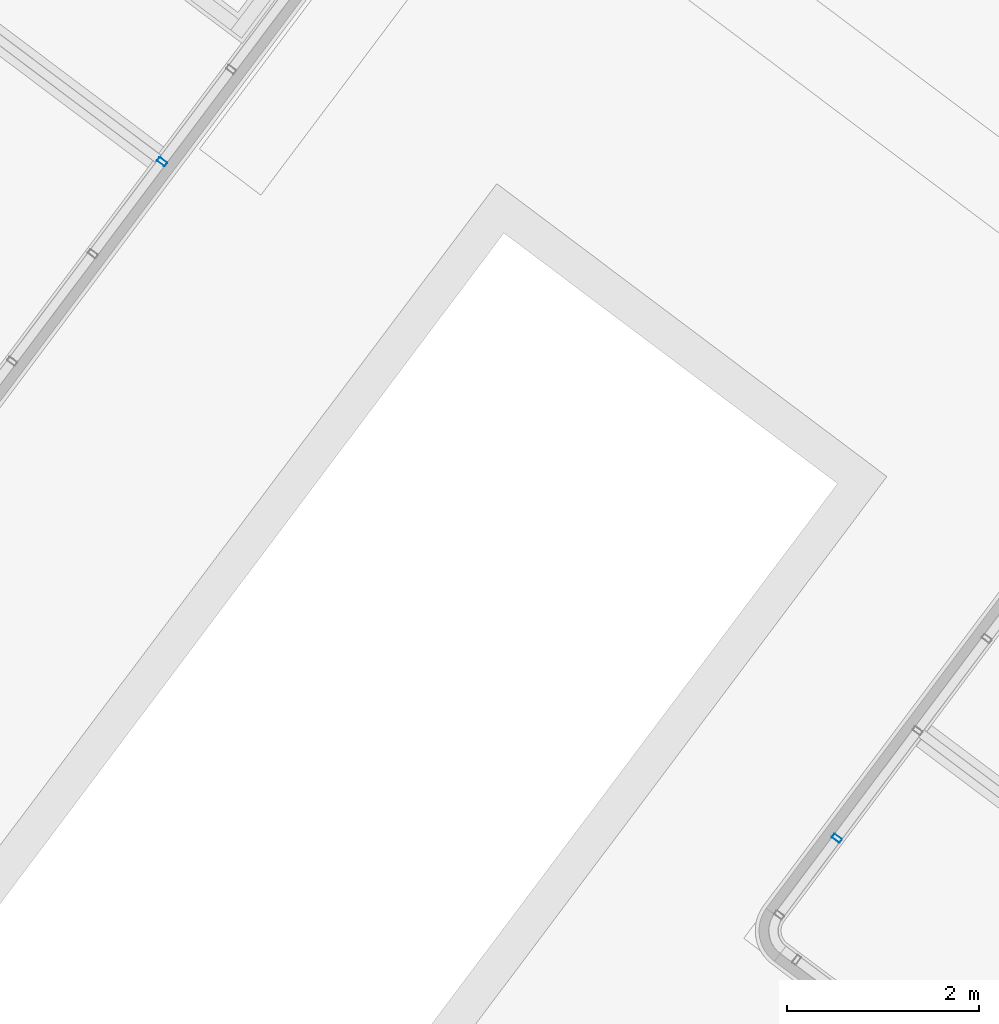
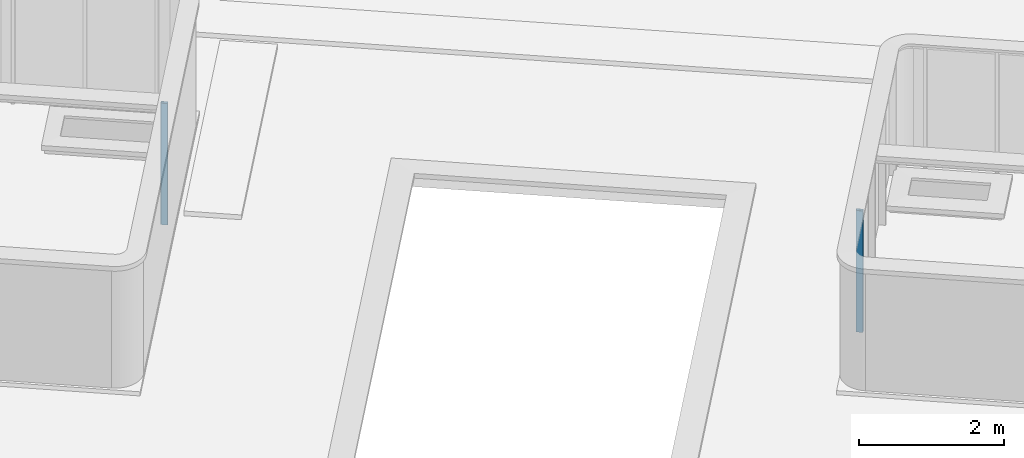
# One storey, part 3 of 28: 2 columns.
"""IFC2X3 building model written with IfcOpenShell, lengths in metres."""

from ifc_helpers import new_model, entity, si_unit, converted_unit, derived_unit, direction, frame, frame_2d, origin, place, context, subcontext, project, spatial, polyline, circle_curve, parameter, trimmed, segment, composite_curve, outline, extrude, source, transform, mapped, material, type_object, type_shapes, element, save


model = new_model("IFC2X3")

# Units and contexts
model_context = context("Model", 3, precision=1e-05, world=origin(), true_north=direction((6.123031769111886e-17, 1.0)))
body_context = subcontext(model_context, "Body", "Model", "MODEL_VIEW")
ifc_project = project(units=[si_unit("LENGTHUNIT", "METRE"), si_unit("AREAUNIT", "SQUARE_METRE"), si_unit("VOLUMEUNIT", "CUBIC_METRE"), converted_unit("PLANEANGLEUNIT", "DEGREE", entity("IfcRatioMeasure", 0.017453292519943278), si_unit("PLANEANGLEUNIT", "RADIAN"), dimensions=[0, 0, 0, 0, 0, 0, 0]), si_unit("MASSUNIT", "GRAM", prefix="KILO"), derived_unit("MASSDENSITYUNIT", [(si_unit("MASSUNIT", "GRAM", prefix="KILO"), 1), (si_unit("LENGTHUNIT", "METRE"), -3)]), derived_unit("IONCONCENTRATIONUNIT", [(si_unit("MASSUNIT", "GRAM", prefix="KILO"), 1), (si_unit("LENGTHUNIT", "METRE"), -3)]), derived_unit("MOMENTOFINERTIAUNIT", [(si_unit("LENGTHUNIT", "METRE"), 4)]), si_unit("TIMEUNIT", "SECOND"), si_unit("FREQUENCYUNIT", "HERTZ"), si_unit("THERMODYNAMICTEMPERATUREUNIT", "DEGREE_CELSIUS"), derived_unit("THERMALTRANSMITTANCEUNIT", [(si_unit("MASSUNIT", "GRAM", prefix="KILO"), 1), (si_unit("THERMODYNAMICTEMPERATUREUNIT", "KELVIN"), -1), (si_unit("TIMEUNIT", "SECOND"), -3)]), derived_unit("THERMALCONDUCTANCEUNIT", [(si_unit("MASSUNIT", "GRAM", prefix="KILO"), 1), (si_unit("THERMODYNAMICTEMPERATUREUNIT", "KELVIN"), -1), (si_unit("TIMEUNIT", "SECOND"), -3), (si_unit("LENGTHUNIT", "METRE"), 1)]), derived_unit("VOLUMETRICFLOWRATEUNIT", [(si_unit("LENGTHUNIT", "METRE"), 3), (si_unit("TIMEUNIT", "SECOND"), -1)]), derived_unit("MASSFLOWRATEUNIT", [(si_unit("MASSUNIT", "GRAM", prefix="KILO"), 1), (si_unit("TIMEUNIT", "SECOND"), -1)]), derived_unit("ROTATIONALFREQUENCYUNIT", [(si_unit("TIMEUNIT", "SECOND"), -1)]), si_unit("ELECTRICCURRENTUNIT", "AMPERE"), si_unit("ELECTRICVOLTAGEUNIT", "VOLT"), si_unit("POWERUNIT", "WATT"), si_unit("FORCEUNIT", "NEWTON", prefix="KILO"), si_unit("ILLUMINANCEUNIT", "LUX"), si_unit("LUMINOUSFLUXUNIT", "LUMEN"), si_unit("LUMINOUSINTENSITYUNIT", "CANDELA"), derived_unit("USERDEFINED", [(si_unit("MASSUNIT", "GRAM", prefix="KILO"), -1), (si_unit("LENGTHUNIT", "METRE"), -2), (si_unit("TIMEUNIT", "SECOND"), 3), (si_unit("LUMINOUSFLUXUNIT", "LUMEN"), 1)]), derived_unit("USERDEFINED", [(si_unit("MASSUNIT", "GRAM", prefix="KILO"), 1), (si_unit("TIMEUNIT", "SECOND"), -3), (si_unit("LENGTHUNIT", "METRE"), 3), (si_unit("ELECTRICCURRENTUNIT", "AMPERE"), -2)]), derived_unit("SOUNDPOWERUNIT", [(si_unit("MASSUNIT", "GRAM", prefix="KILO"), 1), (si_unit("TIMEUNIT", "SECOND"), -3), (si_unit("LENGTHUNIT", "METRE"), 2)]), derived_unit("SOUNDPRESSUREUNIT", [(si_unit("MASSUNIT", "GRAM", prefix="KILO"), 1), (si_unit("LENGTHUNIT", "METRE"), -1), (si_unit("TIMEUNIT", "SECOND"), -2)]), derived_unit("LINEARVELOCITYUNIT", [(si_unit("LENGTHUNIT", "METRE"), 1), (si_unit("TIMEUNIT", "SECOND"), -1)]), si_unit("PRESSUREUNIT", "PASCAL"), derived_unit("USERDEFINED", [(si_unit("MASSUNIT", "GRAM", prefix="KILO"), 1), (si_unit("LENGTHUNIT", "METRE"), -2), (si_unit("TIMEUNIT", "SECOND"), -2)]), derived_unit("LINEARFORCEUNIT", [(si_unit("MASSUNIT", "GRAM", prefix="KILO"), 1), (si_unit("TIMEUNIT", "SECOND"), -2)]), derived_unit("PLANARFORCEUNIT", [(si_unit("MASSUNIT", "GRAM", prefix="KILO"), 1), (si_unit("LENGTHUNIT", "METRE"), -1), (si_unit("TIMEUNIT", "SECOND"), -2)]), derived_unit("SPECIFICHEATCAPACITYUNIT", [(si_unit("THERMODYNAMICTEMPERATUREUNIT", "KELVIN"), -1), (si_unit("LENGTHUNIT", "METRE"), 2), (si_unit("TIMEUNIT", "SECOND"), -2)]), derived_unit("HEATINGVALUEUNIT", [(si_unit("LENGTHUNIT", "METRE"), 2), (si_unit("TIMEUNIT", "SECOND"), -2)]), derived_unit("VAPORPERMEABILITYUNIT", [(si_unit("LENGTHUNIT", "METRE"), -1), (si_unit("TIMEUNIT", "SECOND"), 1)]), derived_unit("DYNAMICVISCOSITYUNIT", [(si_unit("MASSUNIT", "GRAM", prefix="KILO"), 1), (si_unit("TIMEUNIT", "SECOND"), -1), (si_unit("LENGTHUNIT", "METRE"), -1)]), derived_unit("THERMALEXPANSIONCOEFFICIENTUNIT", [(si_unit("THERMODYNAMICTEMPERATUREUNIT", "KELVIN"), -1)]), derived_unit("MODULUSOFELASTICITYUNIT", [(si_unit("MASSUNIT", "GRAM", prefix="KILO"), 1), (si_unit("LENGTHUNIT", "METRE"), -1), (si_unit("TIMEUNIT", "SECOND"), -2)]), derived_unit("ISOTHERMALMOISTURECAPACITYUNIT", [(si_unit("LENGTHUNIT", "METRE"), 3), (si_unit("MASSUNIT", "GRAM", prefix="KILO"), -1)]), derived_unit("MOISTUREDIFFUSIVITYUNIT", [(si_unit("TIMEUNIT", "SECOND"), -1), (si_unit("LENGTHUNIT", "METRE"), 2)])], contexts=[model_context])

# Site, building, storey
site_placement = place(None, frame((0.0, 0.0, 235.0), z_axis=(0.0, 0.0, 1.0), x_axis=(-0.7996477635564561, 0.6004693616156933, 0.0)))
site = spatial("IfcSite", under=ifc_project, at=site_placement, Name="Default", CompositionType="ELEMENT")
building_placement = place(site_placement, origin())
building = spatial("IfcBuilding", under=site, at=building_placement, CompositionType="ELEMENT")
storey_placement = place(building_placement, frame((0.0, 0.0, 3.400000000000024)))
storey = spatial("IfcBuildingStorey", under=building, at=storey_placement, Name="PC- Coberta STR", CompositionType="ELEMENT", Elevation=3.400000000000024)

# Columns
ifc_material = material(Name="Metal - Acero - 345 MPa")
column_type = type_object("IfcColumnType", Name="STR- P- Acer- RHS- Rectangular- T1:100 x 50RHS", PredefinedType="COLUMN", material=ifc_material)
shared_shape = source(origin(), body_context, "Body", "SweptSolid", [
    extrude(outline(composite_curve([segment(polyline([(-0.01900000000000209, -0.04999999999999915), (0.019000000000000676, -0.04999999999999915)]), True, "CONTINUOUS"), segment(trimmed(circle_curve(frame_2d((0.019000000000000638, -0.04400000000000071), x_axis=(-1.0, 0.0)), 0.005999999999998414), [parameter(90.00000000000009)], [parameter(180.0000000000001)], True, "PARAMETER"), True, "CONTINUOUS"), segment(polyline([(0.024999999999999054, -0.044000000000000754), (0.02499999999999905, 0.044000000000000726)]), True, "CONTINUOUS"), segment(trimmed(circle_curve(frame_2d((0.018999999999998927, 0.044000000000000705), x_axis=(-1.0, 0.0)), 0.006000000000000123), [parameter(179.9999999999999)], [parameter(269.99999999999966)], True, "PARAMETER"), True, "CONTINUOUS"), segment(polyline([(0.018999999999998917, 0.05000000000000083), (-0.01899999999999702, 0.050000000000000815)]), True, "CONTINUOUS"), segment(trimmed(circle_curve(frame_2d((-0.018999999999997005, 0.043999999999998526), x_axis=(-1.0, 0.0)), 0.006000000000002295), [parameter(269.99999999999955)], [parameter(359.9999999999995)], True, "PARAMETER"), True, "CONTINUOUS"), segment(polyline([(-0.024999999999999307, 0.04399999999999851), (-0.024999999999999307, -0.04400000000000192)]), True, "CONTINUOUS"), segment(trimmed(circle_curve(frame_2d((-0.019000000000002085, -0.04400000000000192), x_axis=(-1.0, 0.0)), 0.005999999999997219), [parameter(359.9999999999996)], [parameter(89.99999999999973)], True, "PARAMETER"), True, "CONTINUOUS")], self_intersect=False), holes=[composite_curve([segment(trimmed(circle_curve(frame_2d((-0.019000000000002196, -0.044000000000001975), x_axis=(-1.0, 0.0)), 0.0029999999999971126), [parameter(0.0)], [parameter(90.00000000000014)], True, "PARAMETER"), False, "CONTINUOUS"), segment(polyline([(-0.021999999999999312, -0.044000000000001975), (-0.021999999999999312, 0.04400000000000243)]), True, "CONTINUOUS"), segment(trimmed(circle_curve(frame_2d((-0.019000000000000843, 0.04400000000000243), x_axis=(-1.0, 0.0)), 0.00299999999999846), [parameter(269.99999999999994)], [parameter(0.0)], True, "PARAMETER"), False, "CONTINUOUS"), segment(polyline([(-0.01900000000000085, 0.0470000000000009), (0.01899999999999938, 0.04700000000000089)]), True, "CONTINUOUS"), segment(trimmed(circle_curve(frame_2d((0.018999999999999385, 0.04399999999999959), x_axis=(-1.0, 0.0)), 0.0030000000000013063), [parameter(179.99999999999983)], [parameter(270.0)], True, "PARAMETER"), False, "CONTINUOUS"), segment(polyline([(0.022000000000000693, 0.04399999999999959), (0.022000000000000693, -0.04399999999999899)]), True, "CONTINUOUS"), segment(trimmed(circle_curve(frame_2d((0.019000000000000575, -0.043999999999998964), x_axis=(-1.0, 0.0)), 0.0030000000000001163), [parameter(90.00000000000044)], [parameter(180.0000000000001)], True, "PARAMETER"), False, "CONTINUOUS"), segment(polyline([(0.019000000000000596, -0.04699999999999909), (-0.019000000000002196, -0.04699999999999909)]), True, "CONTINUOUS")], self_intersect=False)]), frame((0.02658749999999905, 0.051587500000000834, 0.0), z_axis=(0.0, 0.0, 1.0), x_axis=(-1.0, 0.0, 0.0)), (0.0, 0.0, 1.0), 2.05),
])
type_shapes(column_type, [shared_shape])
for number, where, z_axis, x_axis, name in (
    (1, (34.40859795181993, -33.45360425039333, 0.4), (0.0, 0.0, 1.0), (0.0, -1.0, 0.0), "STR- P- Acer- RHS- Rectangular- T1:100 x 50RHS"),
    (2, (44.25845855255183, -34.867673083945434, 0.4), (0.0, 0.0, 1.0), (0.0, -1.0, 0.0), "STR- P- Acer- RHS- Rectangular- T1:100 x 50RHS"),
):
    element("IfcColumn", number, at=place(storey_placement, frame(where, z_axis=z_axis, x_axis=x_axis)), inside=storey, type_object=column_type, material=ifc_material, Name=name, ObjectType="STR- P- Acer- RHS- Rectangular- T1:100 x 50RHS", context=body_context, shape_type="MappedRepresentation", body=[
        mapped(shared_shape, transform((0.0, 0.0, 0.0), scale=1.0)),
    ])

save(model, "model.ifc")
